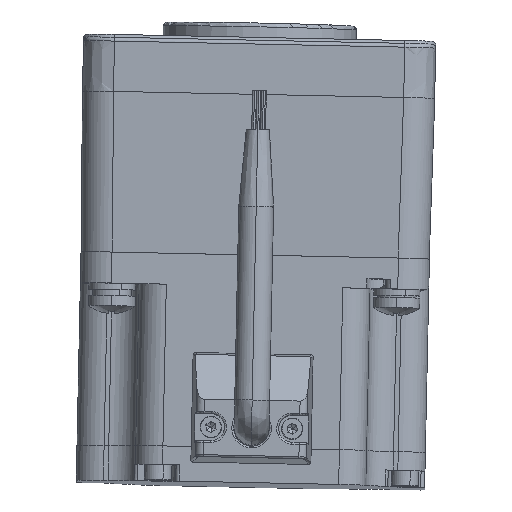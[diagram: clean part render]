
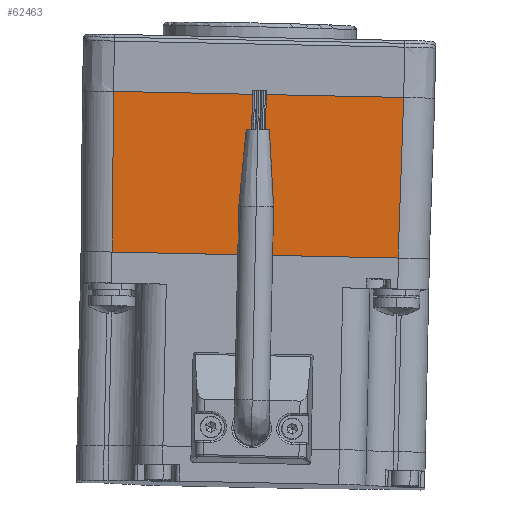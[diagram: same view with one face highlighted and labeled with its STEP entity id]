
A CAD part, left-side view. The second image highlights one B-rep face of the part: STEP entity #62463.
In plain terms, the highlighted planar face has unit normal (-1, 0, 0) as drawn and (0, -1, 0.014) by its records, which use the part's own axes.
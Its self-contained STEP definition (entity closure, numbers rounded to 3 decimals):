
#2716 = VERTEX_POINT ( 'NONE', #28299 ) ;
#9252 = LINE ( 'NONE', #9255, #67859 ) ;
#9255 = CARTESIAN_POINT ( 'NONE',  ( -46.714, -134.917, 41.75 ) ) ;
#9256 = DIRECTION ( 'NONE',  ( 1., 0., 0. ) ) ;
#9906 = LINE ( 'NONE', #9910, #67866 ) ;
#9910 = CARTESIAN_POINT ( 'NONE',  ( 38.997, -135.497, 0.25 ) ) ;
#9912 = DIRECTION ( 'NONE',  ( 1., 0., 0. ) ) ;
#12274 = LINE ( 'NONE', #12275, #67887 ) ;
#12275 = CARTESIAN_POINT ( 'NONE',  ( -36.914, -134.914, 41.999 ) ) ;
#12284 = DIRECTION ( 'NONE',  ( 0.014, 0.014, 1. ) ) ;
#12289 = LINE ( 'NONE', #12290, #67890 ) ;
#12290 = CARTESIAN_POINT ( 'NONE',  ( 36.914, -134.914, 41.999 ) ) ;
#12291 = DIRECTION ( 'NONE',  ( 0.014, -0.014, -1. ) ) ;
#14778 = CARTESIAN_POINT ( 'NONE',  ( 38.997, -134.905, 42.58 ) ) ;
#14781 = FACE_OUTER_BOUND ( 'NONE', #48570, .T. ) ;
#14785 = PLANE ( 'NONE',  #68013 ) ;
#14786 = DIRECTION ( 'NONE',  ( 0., -1., 0.014 ) ) ;
#14787 = DIRECTION ( 'NONE',  ( 0., -0.014, -1. ) ) ;
#18081 = CARTESIAN_POINT ( 'NONE',  ( 37.497, -135.496, 0.25 ) ) ;
#21935 = VERTEX_POINT ( 'NONE', #26829 ) ;
#21941 = VERTEX_POINT ( 'NONE', #26841 ) ;
#26829 = CARTESIAN_POINT ( 'NONE',  ( 36.918, -134.917, 41.75 ) ) ;
#26841 = CARTESIAN_POINT ( 'NONE',  ( -36.918, -134.917, 41.75 ) ) ;
#28299 = CARTESIAN_POINT ( 'NONE',  ( -37.497, -135.496, 0.25 ) ) ;
#47117 = EDGE_CURVE ( 'NONE', #21941, #21935, #9252, .T. ) ;
#47141 = EDGE_CURVE ( 'NONE', #2716, #73037, #9906, .T. ) ;
#47218 = EDGE_CURVE ( 'NONE', #2716, #21941, #12274, .T. ) ;
#47220 = EDGE_CURVE ( 'NONE', #21935, #73037, #12289, .T. ) ;
#48570 = EDGE_LOOP ( 'NONE', ( #60251, #60252, #60253, #60254 ) ) ;
#60251 = ORIENTED_EDGE ( 'NONE', *, *, #47141, .T. ) ;
#60252 = ORIENTED_EDGE ( 'NONE', *, *, #47220, .F. ) ;
#60253 = ORIENTED_EDGE ( 'NONE', *, *, #47117, .F. ) ;
#60254 = ORIENTED_EDGE ( 'NONE', *, *, #47218, .F. ) ;
#62463 = ADVANCED_FACE ( 'NONE', ( #14781 ), #14785, .T. ) ;
#67859 = VECTOR ( 'NONE', #9256, 1000. ) ;
#67866 = VECTOR ( 'NONE', #9912, 1000. ) ;
#67887 = VECTOR ( 'NONE', #12284, 1000. ) ;
#67890 = VECTOR ( 'NONE', #12291, 1000. ) ;
#68013 = AXIS2_PLACEMENT_3D ( 'NONE', #14778, #14786, #14787 ) ;
#73037 = VERTEX_POINT ( 'NONE', #18081 ) ;
